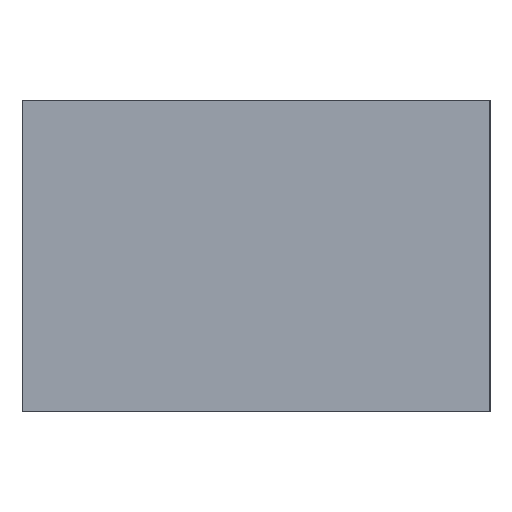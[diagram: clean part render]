
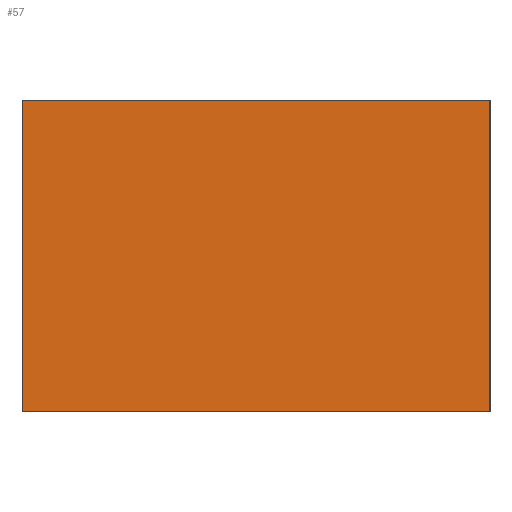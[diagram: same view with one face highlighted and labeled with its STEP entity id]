
A CAD part, left-side view. The second image highlights one B-rep face of the part: STEP entity #57.
In plain terms, the highlighted planar face has unit normal (-1, 0, 0).
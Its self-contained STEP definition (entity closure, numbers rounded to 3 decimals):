
#52=FACE_OUTER_BOUND('',#133,.T.);
#57=ADVANCED_FACE('',(#52),#71,.T.);
#71=PLANE('',#269);
#75=LINE('',#362,#87);
#83=LINE('',#380,#95);
#84=LINE('',#387,#96);
#85=LINE('',#388,#97);
#87=VECTOR('',#293,1.);
#95=VECTOR('',#307,1.);
#96=VECTOR('',#316,1.);
#97=VECTOR('',#317,1.);
#133=EDGE_LOOP('',(#172,#173,#174,#175));
#172=ORIENTED_EDGE('',*,*,#238,.F.);
#173=ORIENTED_EDGE('',*,*,#235,.F.);
#174=ORIENTED_EDGE('',*,*,#239,.T.);
#175=ORIENTED_EDGE('',*,*,#226,.T.);
#205=VERTEX_POINT('',#360);
#207=VERTEX_POINT('',#363);
#212=VERTEX_POINT('',#377);
#213=VERTEX_POINT('',#379);
#226=EDGE_CURVE('',#207,#205,#75,.T.);
#235=EDGE_CURVE('',#213,#212,#83,.T.);
#238=EDGE_CURVE('',#212,#205,#84,.T.);
#239=EDGE_CURVE('',#213,#207,#85,.T.);
#269=AXIS2_PLACEMENT_3D('',#389,#318,#319);
#293=DIRECTION('',(0.,0.,-1.));
#307=DIRECTION('',(0.,0.,-1.));
#316=DIRECTION('',(0.,1.,0.));
#317=DIRECTION('',(0.,1.,0.));
#318=DIRECTION('',(-1.,0.,0.));
#319=DIRECTION('',(0.,0.,1.));
#360=CARTESIAN_POINT('',(-31.,-13.5,-4.));
#362=CARTESIAN_POINT('',(-31.,-13.5,4.));
#363=CARTESIAN_POINT('',(-31.,-13.5,4.));
#377=CARTESIAN_POINT('',(-31.,-25.5,-4.));
#379=CARTESIAN_POINT('',(-31.,-25.5,4.));
#380=CARTESIAN_POINT('',(-31.,-25.5,4.));
#387=CARTESIAN_POINT('',(-31.,-26.,-4.));
#388=CARTESIAN_POINT('',(-31.,-26.,4.));
#389=CARTESIAN_POINT('',(-31.,-26.,4.));
